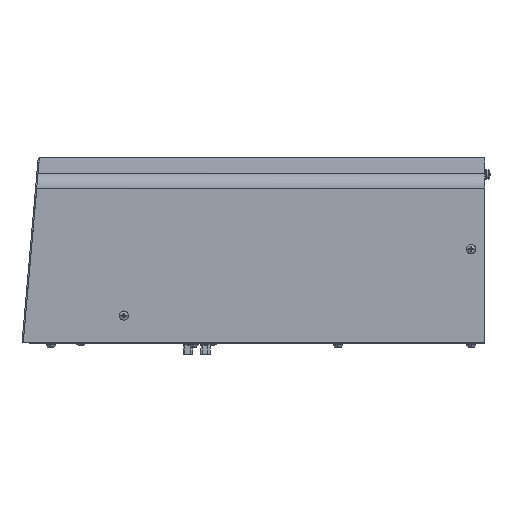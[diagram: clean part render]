
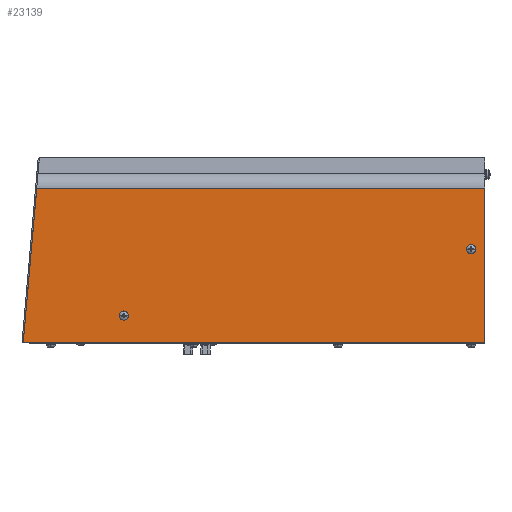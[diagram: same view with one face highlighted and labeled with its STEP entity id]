
A CAD part, left-side view. The second image highlights one B-rep face of the part: STEP entity #23139.
In plain terms, the highlighted planar face has unit normal (-1, 0, 0) as drawn and (1, 0, 0) by its records, which use the part's own axes.
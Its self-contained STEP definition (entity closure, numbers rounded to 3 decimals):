
#253 = FACE_BOUND ( 'NONE', #117008, .T. ) ;
#722 = VERTEX_POINT ( 'NONE', #37872 ) ;
#1267 = DIRECTION ( 'NONE',  ( 1., 0., 0. ) ) ;
#1325 = VERTEX_POINT ( 'NONE', #72305 ) ;
#1554 = LINE ( 'NONE', #110313, #120312 ) ;
#1683 = FACE_BOUND ( 'NONE', #108746, .T. ) ;
#1737 = CARTESIAN_POINT ( 'NONE',  ( 141., 20.75, 318. ) ) ;
#1868 = VECTOR ( 'NONE', #15436, 1000. ) ;
#2809 = VECTOR ( 'NONE', #21784, 1000. ) ;
#5771 = LINE ( 'NONE', #32179, #2809 ) ;
#5774 = DIRECTION ( 'NONE',  ( 0., -1., 0. ) ) ;
#12755 = DIRECTION ( 'NONE',  ( 1., 0., 0. ) ) ;
#12785 = EDGE_CURVE ( 'NONE', #63885, #1325, #71371, .T. ) ;
#13144 = DIRECTION ( 'NONE',  ( 1., 0., 0. ) ) ;
#14339 = ORIENTED_EDGE ( 'NONE', *, *, #63235, .T. ) ;
#15436 = DIRECTION ( 'NONE',  ( 0., 0., 1. ) ) ;
#18202 = EDGE_CURVE ( 'NONE', #1325, #63885, #81403, .T. ) ;
#21784 = DIRECTION ( 'NONE',  ( 0., 0., -1. ) ) ;
#22769 = ORIENTED_EDGE ( 'NONE', *, *, #46382, .F. ) ;
#23139 = ADVANCED_FACE ( 'NONE', ( #1683, #253, #118926 ), #38178, .F. ) ;
#23535 = CARTESIAN_POINT ( 'NONE',  ( 141., 26.25, 318. ) ) ;
#27370 = CARTESIAN_POINT ( 'NONE',  ( 141., 81., 18. ) ) ;
#29289 = CARTESIAN_POINT ( 'NONE',  ( 141., 23.5, 318. ) ) ;
#30385 = ORIENTED_EDGE ( 'NONE', *, *, #12785, .F. ) ;
#30430 = ORIENTED_EDGE ( 'NONE', *, *, #18202, .F. ) ;
#31877 = LINE ( 'NONE', #49315, #76269 ) ;
#32179 = CARTESIAN_POINT ( 'NONE',  ( 141., 0., 1600. ) ) ;
#32203 = EDGE_CURVE ( 'NONE', #41304, #81650, #44503, .T. ) ;
#36938 = DIRECTION ( 'NONE',  ( -1., 0., 0. ) ) ;
#37872 = CARTESIAN_POINT ( 'NONE',  ( 141., 0., 404.913 ) ) ;
#38178 = PLANE ( 'NONE',  #47566 ) ;
#41304 = VERTEX_POINT ( 'NONE', #1737 ) ;
#44503 = CIRCLE ( 'NONE', #65682, 2.75 ) ;
#46382 = EDGE_CURVE ( 'NONE', #50524, #115268, #1554, .T. ) ;
#47290 = CARTESIAN_POINT ( 'NONE',  ( 141., 0., 1600. ) ) ;
#47566 = AXIS2_PLACEMENT_3D ( 'NONE', #47290, #36938, #113641 ) ;
#49315 = CARTESIAN_POINT ( 'NONE',  ( 141., 143.393, 392.368 ) ) ;
#50524 = VERTEX_POINT ( 'NONE', #94899 ) ;
#56121 = EDGE_CURVE ( 'NONE', #108960, #722, #31877, .T. ) ;
#56659 = CARTESIAN_POINT ( 'NONE',  ( 141., 78.25, 18. ) ) ;
#58920 = ORIENTED_EDGE ( 'NONE', *, *, #32203, .F. ) ;
#59534 = DIRECTION ( 'NONE',  ( 0., 1., 0. ) ) ;
#61151 = CARTESIAN_POINT ( 'NONE',  ( 141., 0., 6. ) ) ;
#63235 = EDGE_CURVE ( 'NONE', #50524, #108960, #76036, .T. ) ;
#63885 = VERTEX_POINT ( 'NONE', #56659 ) ;
#64512 = ORIENTED_EDGE ( 'NONE', *, *, #56121, .T. ) ;
#65682 = AXIS2_PLACEMENT_3D ( 'NONE', #29289, #95575, #95985 ) ;
#71371 = CIRCLE ( 'NONE', #101482, 2.75 ) ;
#72305 = CARTESIAN_POINT ( 'NONE',  ( 141., 83.75, 18. ) ) ;
#76036 = LINE ( 'NONE', #92522, #1868 ) ;
#76269 = VECTOR ( 'NONE', #115286, 1000. ) ;
#79516 = ORIENTED_EDGE ( 'NONE', *, *, #80480, .T. ) ;
#80480 = EDGE_CURVE ( 'NONE', #722, #115268, #5771, .T. ) ;
#81403 = CIRCLE ( 'NONE', #91491, 2.75 ) ;
#81650 = VERTEX_POINT ( 'NONE', #23535 ) ;
#82228 = ORIENTED_EDGE ( 'NONE', *, *, #107044, .F. ) ;
#86585 = CARTESIAN_POINT ( 'NONE',  ( 141., 133.661, 393.22 ) ) ;
#89826 = DIRECTION ( 'NONE',  ( 0., 1., 0. ) ) ;
#91491 = AXIS2_PLACEMENT_3D ( 'NONE', #27370, #1267, #112815 ) ;
#92522 = CARTESIAN_POINT ( 'NONE',  ( 141., 133.661, 1600. ) ) ;
#94899 = CARTESIAN_POINT ( 'NONE',  ( 141., 133.661, 6. ) ) ;
#95575 = DIRECTION ( 'NONE',  ( 1., 0., 0. ) ) ;
#95985 = DIRECTION ( 'NONE',  ( 0., 1., 0. ) ) ;
#98933 = CARTESIAN_POINT ( 'NONE',  ( 141., 81., 18. ) ) ;
#99344 = CARTESIAN_POINT ( 'NONE',  ( 141., 23.5, 318. ) ) ;
#101482 = AXIS2_PLACEMENT_3D ( 'NONE', #98933, #13144, #59534 ) ;
#102629 = EDGE_LOOP ( 'NONE', ( #22769, #14339, #64512, #79516 ) ) ;
#107044 = EDGE_CURVE ( 'NONE', #81650, #41304, #113780, .T. ) ;
#108746 = EDGE_LOOP ( 'NONE', ( #82228, #58920 ) ) ;
#108960 = VERTEX_POINT ( 'NONE', #86585 ) ;
#110313 = CARTESIAN_POINT ( 'NONE',  ( 141., 0., 6. ) ) ;
#112815 = DIRECTION ( 'NONE',  ( 0., 1., 0. ) ) ;
#113423 = AXIS2_PLACEMENT_3D ( 'NONE', #99344, #12755, #89826 ) ;
#113641 = DIRECTION ( 'NONE',  ( 0., -1., 0. ) ) ;
#113780 = CIRCLE ( 'NONE', #113423, 2.75 ) ;
#115268 = VERTEX_POINT ( 'NONE', #61151 ) ;
#115286 = DIRECTION ( 'NONE',  ( 0., -0.996, 0.087 ) ) ;
#117008 = EDGE_LOOP ( 'NONE', ( #30430, #30385 ) ) ;
#118926 = FACE_OUTER_BOUND ( 'NONE', #102629, .T. ) ;
#120312 = VECTOR ( 'NONE', #5774, 1000. ) ;
